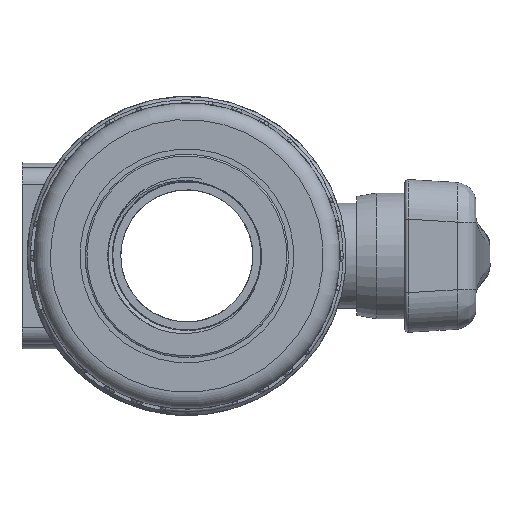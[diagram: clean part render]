
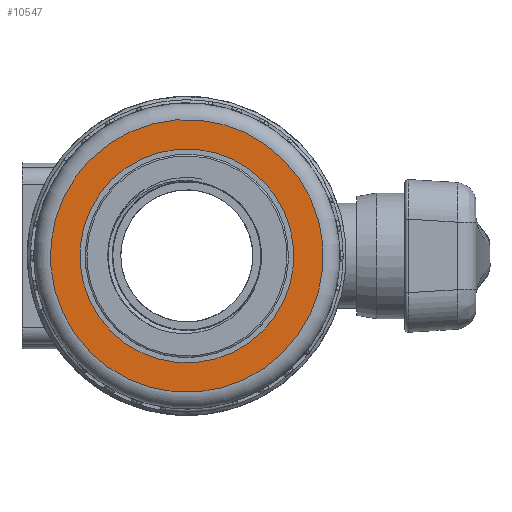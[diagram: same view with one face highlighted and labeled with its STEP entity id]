
A CAD part, front view. The second image highlights one B-rep face of the part: STEP entity #10547.
In plain terms, the highlighted planar face has unit normal (0, -1, 0).
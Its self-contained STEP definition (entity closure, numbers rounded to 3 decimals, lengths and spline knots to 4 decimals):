
#330=FACE_BOUND('',#1984,.T.);
#1297=FACE_OUTER_BOUND('',#1983,.T.);
#1983=EDGE_LOOP('',(#8169));
#1984=EDGE_LOOP('',(#8170));
#2557=CIRCLE('',#11436,4.125);
#2558=CIRCLE('',#11437,3.235);
#4547=VERTEX_POINT('',#43985);
#4548=VERTEX_POINT('',#43987);
#5828=EDGE_CURVE('',#4547,#4547,#2557,.T.);
#5829=EDGE_CURVE('',#4548,#4548,#2558,.T.);
#8169=ORIENTED_EDGE('',*,*,#5828,.F.);
#8170=ORIENTED_EDGE('',*,*,#5829,.T.);
#9437=PLANE('',#11435);
#10547=ADVANCED_FACE('',(#1297,#330),#9437,.T.);
#11435=AXIS2_PLACEMENT_3D('',#43984,#13485,#13486);
#11436=AXIS2_PLACEMENT_3D('',#43986,#13487,#13488);
#11437=AXIS2_PLACEMENT_3D('',#43988,#13489,#13490);
#13485=DIRECTION('center_axis',(0.,-1.,0.));
#13486=DIRECTION('ref_axis',(-0.568,0.,0.823));
#13487=DIRECTION('center_axis',(0.,1.,0.));
#13488=DIRECTION('ref_axis',(-0.823,0.,-0.568));
#13489=DIRECTION('center_axis',(0.,1.,0.));
#13490=DIRECTION('ref_axis',(-0.823,0.,-0.568));
#43984=CARTESIAN_POINT('Origin',(3.3944,-5.1,2.3439));
#43985=CARTESIAN_POINT('',(3.3944,-5.1,2.3439));
#43986=CARTESIAN_POINT('Origin',(0.,-5.1,
0.));
#43987=CARTESIAN_POINT('',(2.662,-5.1,1.8382));
#43988=CARTESIAN_POINT('Origin',(0.,-5.1,
0.));
